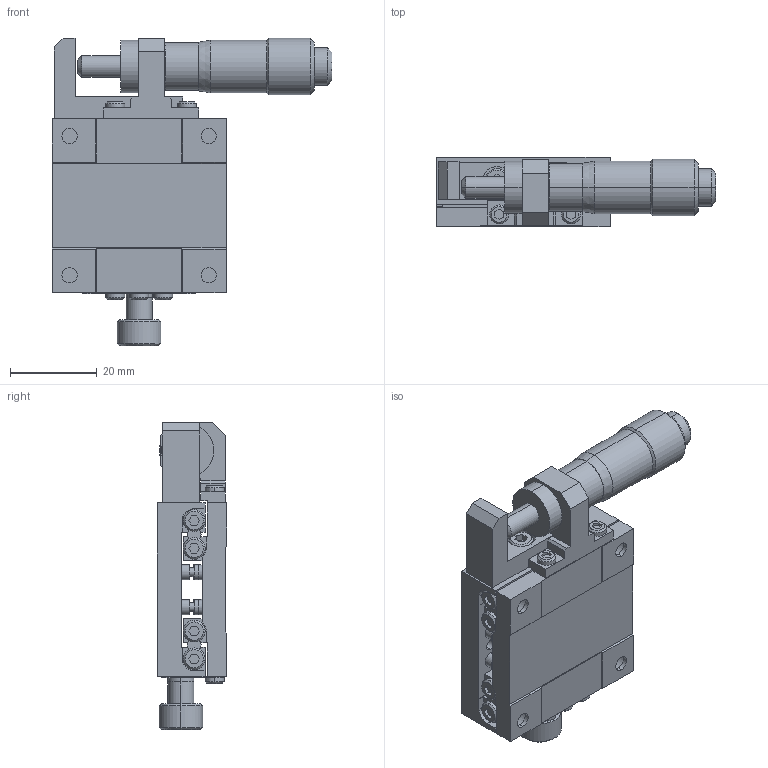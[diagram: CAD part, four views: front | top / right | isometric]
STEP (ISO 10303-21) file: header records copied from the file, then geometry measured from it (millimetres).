
FILE_DESCRIPTION (( 'STEP AP203' ), '1' );
FILE_NAME ('MX40-SS.STEP', '2008-08-02T03:40:57', ( '陳志豪' ), ( '高明鐵企業股份有限公司' ), 'SwSTEP 2.0', 'SolidWorks 2007', '' );
FILE_SCHEMA (( 'CONFIG_CONTROL_DESIGN' ));
Length unit declared in the file: millimetre
Products named in the file (1): MX40-SS
Bounding box: 64.3 x 16 x 70.7 mm (x, y, z)
Volume: 30008.5 mm3; surface area: 15987.9 mm2
Topology: 6 solids, 6 shells, 809 faces, 2070 edges, 1338 vertices
Faces by surface type: plane 473, cylinder 179, bspline 99, cone 58
Entity records: 29529 total; most frequent: CARTESIAN_POINT 10153, ORIENTED_EDGE 4116, DIRECTION 3714, EDGE_CURVE 2058, VECTOR 1428, LINE 1428, VERTEX_POINT 1338, AXIS2_PLACEMENT_3D 1143
